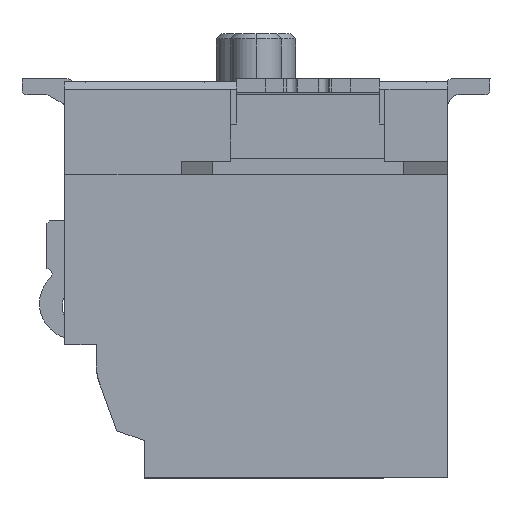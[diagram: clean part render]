
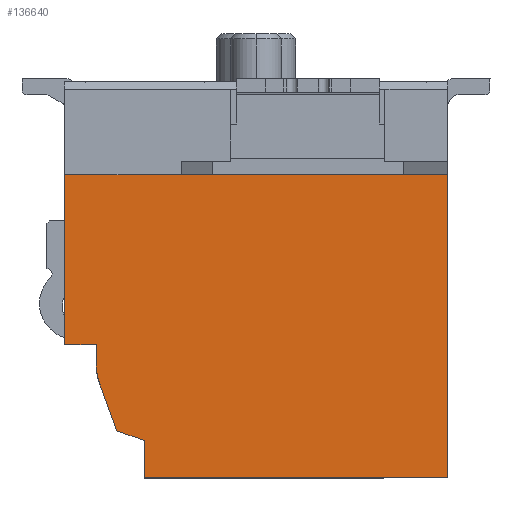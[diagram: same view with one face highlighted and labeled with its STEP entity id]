
A CAD part, left-side view. The second image highlights one B-rep face of the part: STEP entity #136640.
In plain terms, the highlighted planar face has unit normal (-1, 0, 0).
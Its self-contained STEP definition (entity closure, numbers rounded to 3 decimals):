
#21750=CARTESIAN_POINT('',(-32.355,7.2,-0.2));
#21760=VERTEX_POINT('',#21750);
#21790=CARTESIAN_POINT('',(-32.355,7.2,0.));
#21800=DIRECTION('',(0.,0.,-1.));
#21810=VECTOR('',#21800,1.);
#21820=LINE('',#21790,#21810);
#21830=CARTESIAN_POINT('',(-32.355,7.2,-3.4));
#21840=VERTEX_POINT('',#21830);
#21850=EDGE_CURVE('',#21760,#21840,#21820,.T.);
#80670=CARTESIAN_POINT('',(-32.355,0.,-5.9));
#80680=VERTEX_POINT('',#80670);
#80710=CARTESIAN_POINT('',(-32.355,0.,0.));
#80720=DIRECTION('',(0.,0.,1.));
#80730=VECTOR('',#80720,1.);
#80740=LINE('',#80710,#80730);
#80750=CARTESIAN_POINT('',(-32.355,0.,-0.2));
#80760=VERTEX_POINT('',#80750);
#80770=EDGE_CURVE('',#80680,#80760,#80740,.T.);
#103630=CARTESIAN_POINT('',(-32.355,0.,-0.2));
#103640=DIRECTION('',(0.,-1.,0.));
#103650=VECTOR('',#103640,1.);
#103660=LINE('',#103630,#103650);
#103670=EDGE_CURVE('',#21760,#80760,#103660,.T.);
#135990=CARTESIAN_POINT('',(-32.355,0.,-5.9));
#136000=DIRECTION('',(-1.,0.,0.));
#136010=DIRECTION('',(0.,0.,1.));
#136020=AXIS2_PLACEMENT_3D('',#135990,#136000,#136010);
#136030=PLANE('',#136020);
#136040=ORIENTED_EDGE('',*,*,#103670,.F.);
#136050=ORIENTED_EDGE('',*,*,#80770,.T.);
#136060=CARTESIAN_POINT('',(-32.355,0.,-5.9));
#136070=DIRECTION('',(0.,1.,0.));
#136080=VECTOR('',#136070,1.);
#136090=LINE('',#136060,#136080);
#136100=CARTESIAN_POINT('',(-32.355,5.7,-5.9));
#136110=VERTEX_POINT('',#136100);
#136120=EDGE_CURVE('',#80680,#136110,#136090,.T.);
#136130=ORIENTED_EDGE('',*,*,#136120,.F.);
#136140=CARTESIAN_POINT('',(-32.355,5.7,0.));
#136150=DIRECTION('',(0.,0.,1.));
#136160=VECTOR('',#136150,1.);
#136170=LINE('',#136140,#136160);
#136180=CARTESIAN_POINT('',(-32.355,5.7,-5.2));
#136190=VERTEX_POINT('',#136180);
#136200=EDGE_CURVE('',#136110,#136190,#136170,.T.);
#136210=ORIENTED_EDGE('',*,*,#136200,.F.);
#136220=CARTESIAN_POINT('',(-32.355,0.,-7.173));
#136230=DIRECTION('',(0.,-0.945,-0.327));
#136240=VECTOR('',#136230,1.);
#136250=LINE('',#136220,#136240);
#136260=CARTESIAN_POINT('',(-32.355,6.22,-5.02));
#136270=VERTEX_POINT('',#136260);
#136280=EDGE_CURVE('',#136270,#136190,#136250,.T.);
#136290=ORIENTED_EDGE('',*,*,#136280,.T.);
#136300=CARTESIAN_POINT('',(-32.355,7.303,-2.));
#136310=DIRECTION('',(0.,-0.338,-0.941));
#136320=VECTOR('',#136310,1.);
#136330=LINE('',#136300,#136320);
#136340=CARTESIAN_POINT('',(-32.355,6.55,-4.1))
;
#136350=VERTEX_POINT('',#136340);
#136360=EDGE_CURVE('',#136350,#136270,#136330,.T.);
#136370=ORIENTED_EDGE('',*,*,#136360,.T.);
#136380=CARTESIAN_POINT('',(-32.355,5.675,-3.8));
#136390=DIRECTION('',(-1.,0.,0.));
#136400=DIRECTION('',(0.,1.,0.));
#136410=AXIS2_PLACEMENT_3D('',#136380,#136390,#136400);
#136420=CIRCLE('',#136410,0.925);
#136430=CARTESIAN_POINT('',(-32.355,6.6,-3.8));
#136440=VERTEX_POINT('',#136430);
#136450=EDGE_CURVE('',#136440,#136350,#136420,.T.);
#136460=ORIENTED_EDGE('',*,*,#136450,.T.);
#136470=CARTESIAN_POINT('',(-32.355,6.6,-2.));
#136480=DIRECTION('',(0.,0.,-1.));
#136490=VECTOR('',#136480,1.);
#136500=LINE('',#136470,#136490);
#136510=CARTESIAN_POINT('',(-32.355,6.6,-3.4));
#136520=VERTEX_POINT('',#136510);
#136530=EDGE_CURVE('',#136520,#136440,#136500,.T.);
#136540=ORIENTED_EDGE('',*,*,#136530,.T.);
#136550=CARTESIAN_POINT('',(-32.355,0.,-3.4));
#136560=DIRECTION('',(0.,1.,0.));
#136570=VECTOR('',#136560,1.);
#136580=LINE('',#136550,#136570);
#136590=EDGE_CURVE('',#136520,#21840,#136580,.T.);
#136600=ORIENTED_EDGE('',*,*,#136590,.F.);
#136610=ORIENTED_EDGE('',*,*,#21850,.T.);
#136620=EDGE_LOOP('',(#136610,#136600,#136540,#136460,#136370,#136290,
#136210,#136130,#136050,#136040));
#136630=FACE_OUTER_BOUND('',#136620,.T.);
#136640=ADVANCED_FACE('',(#136630),#136030,.T.);
